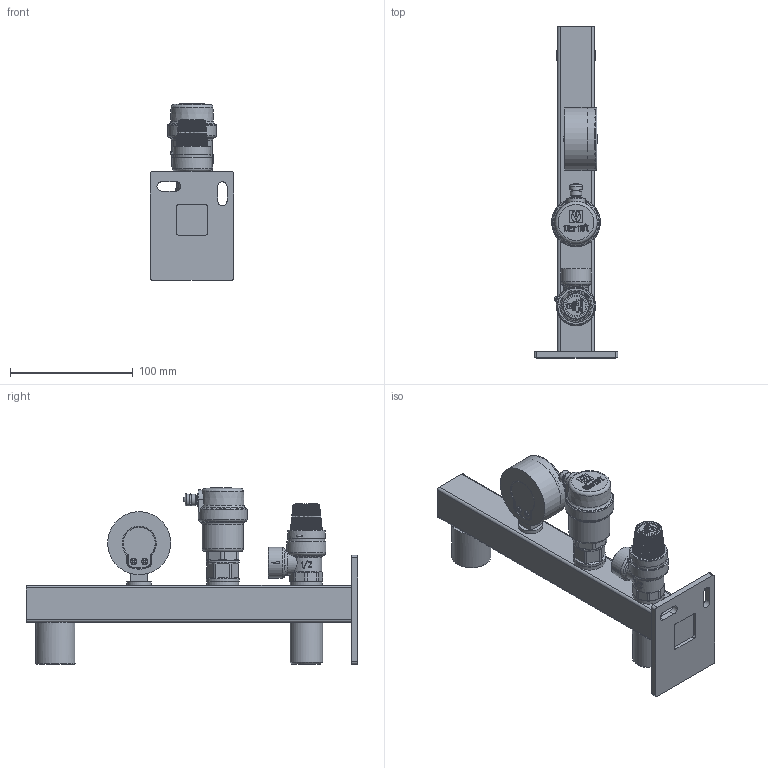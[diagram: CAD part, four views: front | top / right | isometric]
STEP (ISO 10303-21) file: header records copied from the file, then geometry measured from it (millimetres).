
FILE_DESCRIPTION(('STEP AP203'), '1');
FILE_NAME('VT.495.0.3', '', ('UNSPECIFIED'), ('UNSPECIFIED'), 'C3D Converter', 'C3D Toolkit', '');
FILE_SCHEMA(('CONFIG_CONTROL_DESIGN'));
Length unit declared in the file: millimetre
Products named in the file (1): ВР.494726.010.000 СБ
Bounding box: 68 x 270 x 143.45 mm (x, y, z)
Volume: 267332.4 mm3; surface area: 119720 mm2
Topology: 1 solids, 8 shells, 1425 faces, 3832 edges, 2527 vertices
Faces by surface type: plane 692, extrusion 444, cylinder 138, cone 122, torus 23, bspline 6
Full cylindrical faces by diameter (mm): 1 x1, 1.1 x1, 1.5 x1, 1.7 x2, 2.5 x2, 4 x1, 6.8 x1, 9.3 x1, 10 x1, 10.5 x1, 15 x1, 16 x1, 17.1 x1, 18 x1, 18.632 x2, 19.5 x1, 20 x1, 24 x3, 24.118 x1, 25 x1, 26 x3, 26.441 x1, 26.5 x2, 30 x1, 30.5 x1, 32 x2, 33.5 x1, 39.5 x1, 47.8 x1, 48 x1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
Entity records: 51656 total; most frequent: CARTESIAN_POINT 18236, ORIENTED_EDGE 7510, DIRECTION 5386, EDGE_CURVE 3757, VERTEX_POINT 2527, VECTOR 2480, LINE 2036, B_SPLINE_CURVE_WITH_KNOTS 1644
